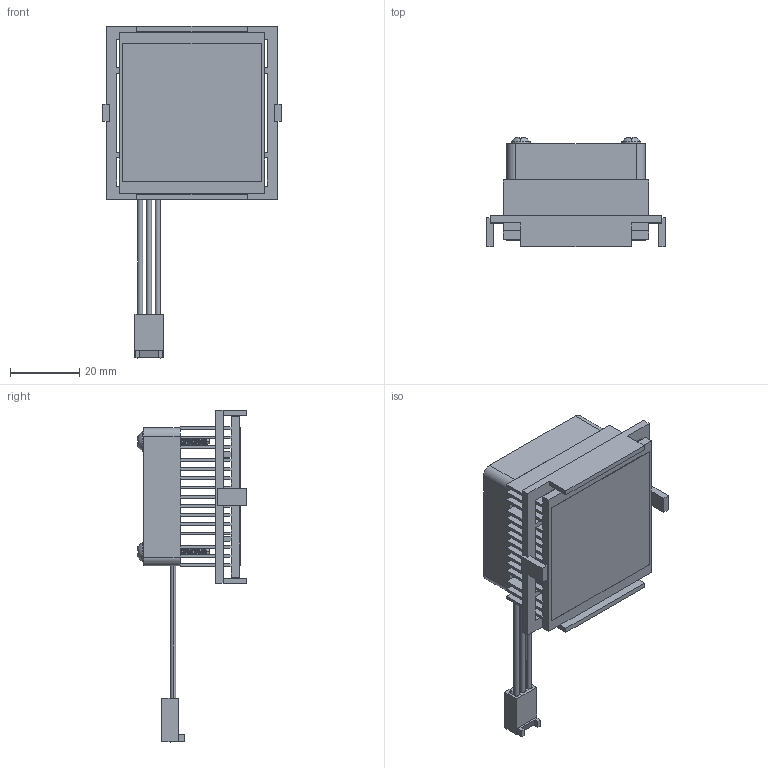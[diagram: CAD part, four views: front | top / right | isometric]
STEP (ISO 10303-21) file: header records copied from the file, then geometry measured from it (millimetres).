
FILE_DESCRIPTION (( 'STEP AP214' ), '1' );
FILE_NAME ('FA47.5-2.5+BU.STEP', '2023-03-07T16:41:08', ( '' ), ( '' ), 'SwSTEP 2.0', 'SolidWorks 2020', '' );
FILE_SCHEMA (( 'AUTOMOTIVE_DESIGN' ));
Length unit declared in the file: millimetre
Products named in the file (1): FA47.5-2.5+BU
Bounding box: 51.7 x 31.78 x 96.1 mm (x, y, z)
Volume: 23441.2 mm3; surface area: 39453.5 mm2
Topology: 8 solids, 8 shells, 843 faces, 2461 edges, 1636 vertices
Faces by surface type: plane 327, cylinder 306, bspline 158, cone 36, sphere 8, torus 8
Entity records: 46069 total; most frequent: CARTESIAN_POINT 17341, ORIENTED_EDGE 4922, DIRECTION 3161, EDGE_CURVE 2461, VERTEX_POINT 1636, VECTOR 1249, LINE 1249, AXIS2_PLACEMENT_3D 956
